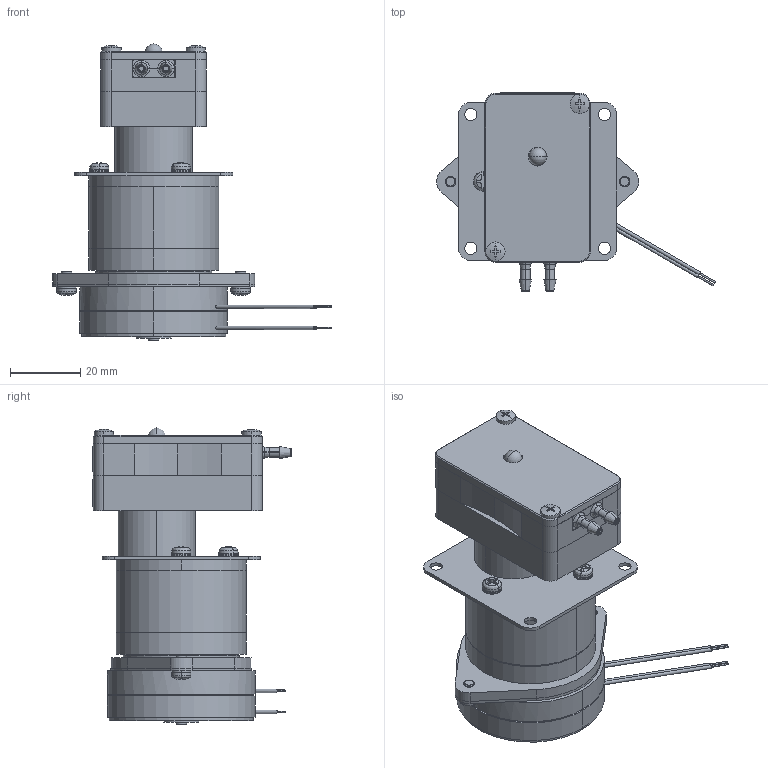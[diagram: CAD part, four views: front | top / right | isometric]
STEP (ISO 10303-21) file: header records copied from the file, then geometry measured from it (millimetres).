
FILE_DESCRIPTION (( 'STEP AP214' ), '1' );
FILE_NAME ('rp-hxxxx-vs-step.STEP', '2025-04-28T05:49:55', ( '' ), ( '' ), 'SwSTEP 2.0', 'SolidWorks 2024', '' );
FILE_SCHEMA (( 'AUTOMOTIVE_DESIGN' ));
Length unit declared in the file: millimetre
Products named in the file (21): DC0004_1; PR-Y748_1; RP-G3N_JOINER_R1_forWEB; MOTOR SCREW; PF42T-48Q1; M26x10_Pタイト_CSPBDS2B-ST-TP2_6-10; BASE_forWEB; COVER; M3_S_W5-WS000_1; rp-hxxxx-vs-step; M3_S_W8-WS000_1; KA-Y983_1; ROTOR_forWEB; CSPPNB2-ST-M3-5-2_CSPPNB2-ST-M3-5-2_1; PF42TQ-MOTOR; CSPPNB2-ST-M3-5-1_CSPPNB2-ST-M3-5-1_1; NPM_TP-MX444-PHM-5-Y983-5; HM-5-Y983_1; PUMP CASE -A_forWEB; br0029_a_1; MP-Y983_1
Assembly tree (30 placements, depth 4):
  rp-hxxxx-vs-step
    BASE_forWEB
    RP-G3N_JOINER_R1_forWEB
    MOTOR SCREW  x4
    M26x10_Pタイト_CSPBDS2B-ST-TP2_6-10  x2
    ROTOR_forWEB
    NPM_TP-MX444-PHM-5-Y983-5
      KA-Y983_1
      PF42T-48Q1
        PF42TQ-MOTOR
      br0029_a_1
      HM-5-Y983_1
      M3_S_W5-WS000_1  x5
        CSPPNB2-ST-M3-5-1_CSPPNB2-ST-M3-5-1_1
        CSPPNB2-ST-M3-5-2_CSPPNB2-ST-M3-5-2_1
      MP-Y983_1
      PR-Y748_1
      DC0004_1
      M3_S_W8-WS000_1  x3
    PUMP CASE -A_forWEB
    COVER
Bounding box: 79.33 x 56.5 x 84.2 mm (x, y, z)
Volume: 90420.5 mm3; surface area: 42469.2 mm2
Topology: 30 solids, 33 shells, 1178 faces, 2983 edges, 1937 vertices
Faces by surface type: cylinder 528, plane 464, cone 86, bspline 54, torus 40, sphere 6
Entity records: 29180 total; most frequent: CARTESIAN_POINT 4995, DIRECTION 4215, ORIENTED_EDGE 3734, EDGE_CURVE 1871, AXIS2_PLACEMENT_3D 1697, VERTEX_POINT 1221, CIRCLE 925, EDGE_LOOP 886
